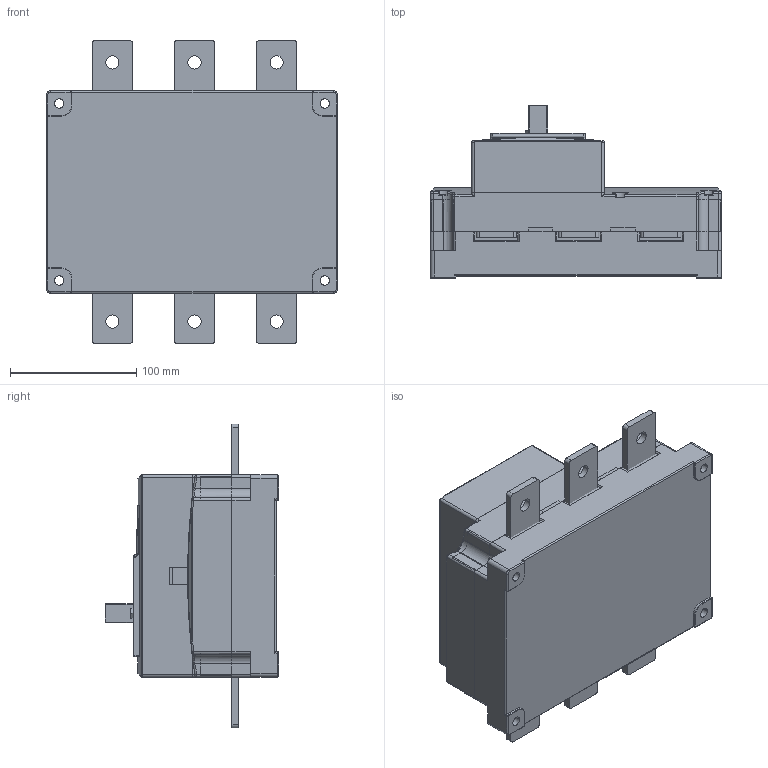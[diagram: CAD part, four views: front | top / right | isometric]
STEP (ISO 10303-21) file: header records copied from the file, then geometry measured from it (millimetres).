
FILE_DESCRIPTION((''),'2;1');
FILE_NAME('NH40-315-3_ASM','2018-05-15T',('zhuanghy'),(''),'PRO/ENGINEER BY PARAMETRIC TECHNOLOGY CORPORATION, 2008380','PRO/ENGINEER BY PARAMETRIC TECHNOLOGY CORPORATION, 2008380','');
FILE_SCHEMA(('CONFIG_CONTROL_DESIGN'));
Length unit declared in the file: millimetre
Products named in the file (6): PRT215_66; PRT101_29; NH40-630BOCHA_97; NH40-315JINGCHUTOU_63; ASM0004_ASM_3_ASM; NH40-315-3_ASM
Assembly tree (10 placements, depth 3):
  NH40-315-3_ASM
    ASM0004_ASM_3_ASM
      PRT215_66
      PRT101_29
      NH40-630BOCHA_97
      NH40-315JINGCHUTOU_63  x6
Bounding box: 230 x 137 x 240 mm (x, y, z)
Volume: 3577494.5 mm3; surface area: 376111.7 mm2
Topology: 9 solids, 9 shells, 818 faces, 2134 edges, 1340 vertices
Faces by surface type: cylinder 335, plane 315, bspline 83, torus 73, sphere 10, cone 2
Entity records: 28519 total; most frequent: CARTESIAN_POINT 11077, ORIENTED_EDGE 3746, DIRECTION 3505, EDGE_CURVE 1873, AXIS2_PLACEMENT_3D 1275, VERTEX_POINT 1170, VECTOR 955, LINE 955
